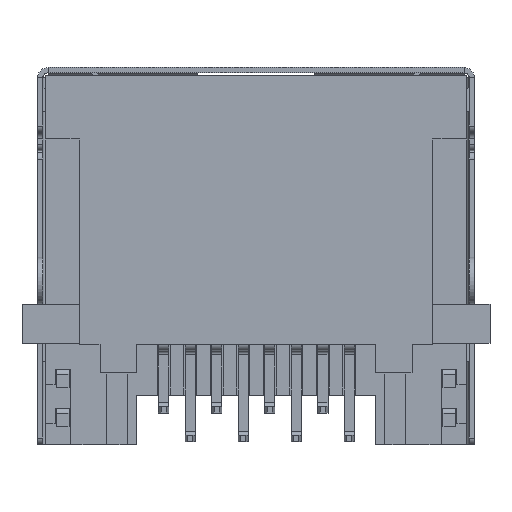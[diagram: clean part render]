
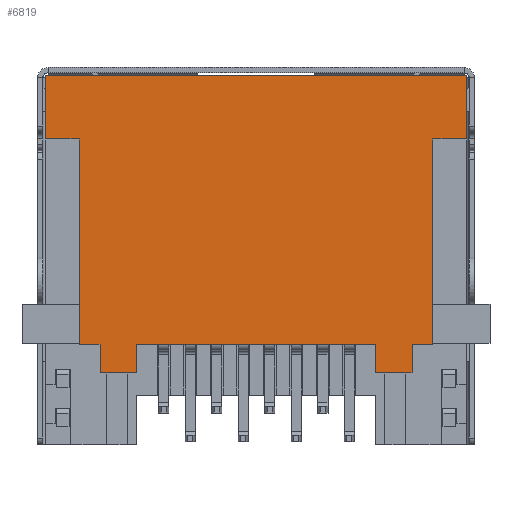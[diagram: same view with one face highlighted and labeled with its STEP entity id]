
A CAD part, front view. The second image highlights one B-rep face of the part: STEP entity #6819.
In plain terms, the highlighted planar face has unit normal (0, -1, 0).
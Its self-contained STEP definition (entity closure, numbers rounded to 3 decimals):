
#49=DIRECTION('',(1.,0.,0.));
#50=VECTOR('',#49,16.2);
#51=CARTESIAN_POINT('',(-8.1,-4.75,7.1));
#52=LINE('',#51,#50);
#337=DIRECTION('',(0.,0.,-1.));
#338=VECTOR('',#337,1.1);
#339=CARTESIAN_POINT('',(-6.,-4.75,-3.25));
#340=LINE('',#339,#338);
#637=DIRECTION('',(0.,0.,1.));
#638=VECTOR('',#637,2.45);
#639=CARTESIAN_POINT('',(8.1,-4.75,4.65));
#640=LINE('',#639,#638);
#2397=DIRECTION('',(1.,0.,0.));
#2398=VECTOR('',#2397,0.8);
#2399=CARTESIAN_POINT('',(6.,-4.75,-3.25));
#2400=LINE('',#2399,#2398);
#2401=DIRECTION('',(0.,0.,-1.));
#2402=VECTOR('',#2401,1.1);
#2403=CARTESIAN_POINT('',(4.6,-4.75,-3.25));
#2404=LINE('',#2403,#2402);
#2405=DIRECTION('',(1.,0.,0.));
#2406=VECTOR('',#2405,9.2);
#2407=CARTESIAN_POINT('',(-4.6,-4.75,-3.25));
#2408=LINE('',#2407,#2406);
#2409=DIRECTION('',(0.,0.,-1.));
#2410=VECTOR('',#2409,1.1);
#2411=CARTESIAN_POINT('',(-4.6,-4.75,-3.25));
#2412=LINE('',#2411,#2410);
#2413=DIRECTION('',(1.,0.,0.));
#2414=VECTOR('',#2413,0.8);
#2415=CARTESIAN_POINT('',(-6.8,-4.75,-3.25));
#2416=LINE('',#2415,#2414);
#2417=DIRECTION('',(0.,0.,-1.));
#2418=VECTOR('',#2417,7.9);
#2419=CARTESIAN_POINT('',(-6.8,-4.75,4.65));
#2420=LINE('',#2419,#2418);
#2421=DIRECTION('',(1.,0.,0.));
#2422=VECTOR('',#2421,1.3);
#2423=CARTESIAN_POINT('',(-8.1,-4.75,4.65));
#2424=LINE('',#2423,#2422);
#2425=DIRECTION('',(0.,0.,1.));
#2426=VECTOR('',#2425,2.45);
#2427=CARTESIAN_POINT('',(-8.1,-4.75,4.65));
#2428=LINE('',#2427,#2426);
#2429=DIRECTION('',(-1.,0.,0.));
#2430=VECTOR('',#2429,1.3);
#2431=CARTESIAN_POINT('',(8.1,-4.75,4.65));
#2432=LINE('',#2431,#2430);
#2433=DIRECTION('',(0.,0.,-1.));
#2434=VECTOR('',#2433,7.9);
#2435=CARTESIAN_POINT('',(6.8,-4.75,4.65));
#2436=LINE('',#2435,#2434);
#2437=DIRECTION('',(0.,0.,-1.));
#2438=VECTOR('',#2437,1.1);
#2439=CARTESIAN_POINT('',(6.,-4.75,-3.25));
#2440=LINE('',#2439,#2438);
#2449=DIRECTION('',(1.,0.,0.));
#2450=VECTOR('',#2449,1.4);
#2451=CARTESIAN_POINT('',(4.6,-4.75,-4.35));
#2452=LINE('',#2451,#2450);
#2485=DIRECTION('',(-1.,0.,0.));
#2486=VECTOR('',#2485,1.4);
#2487=CARTESIAN_POINT('',(-4.6,-4.75,-4.35));
#2488=LINE('',#2487,#2486);
#2665=CARTESIAN_POINT('',(-8.1,-4.75,7.1));
#2666=CARTESIAN_POINT('',(8.1,-4.75,7.1));
#2667=VERTEX_POINT('',#2665);
#2668=VERTEX_POINT('',#2666);
#2817=CARTESIAN_POINT('',(8.1,-4.75,4.65));
#2818=CARTESIAN_POINT('',(6.8,-4.75,4.65));
#2819=VERTEX_POINT('',#2817);
#2820=VERTEX_POINT('',#2818);
#2821=CARTESIAN_POINT('',(6.8,-4.75,-3.25));
#2822=VERTEX_POINT('',#2821);
#2831=CARTESIAN_POINT('',(-6.8,-4.75,4.65));
#2832=VERTEX_POINT('',#2831);
#2833=CARTESIAN_POINT('',(-8.1,-4.75,4.65));
#2834=VERTEX_POINT('',#2833);
#2835=CARTESIAN_POINT('',(-6.8,-4.75,-3.25));
#2836=VERTEX_POINT('',#2835);
#2993=CARTESIAN_POINT('',(-4.6,-4.75,-4.35));
#2994=CARTESIAN_POINT('',(-6.,-4.75,-4.35));
#2995=VERTEX_POINT('',#2993);
#2996=VERTEX_POINT('',#2994);
#3009=CARTESIAN_POINT('',(-6.,-4.75,-3.25));
#3010=VERTEX_POINT('',#3009);
#3011=CARTESIAN_POINT('',(-4.6,-4.75,-3.25));
#3012=VERTEX_POINT('',#3011);
#3017=CARTESIAN_POINT('',(4.6,-4.75,-4.35));
#3018=CARTESIAN_POINT('',(6.,-4.75,-4.35));
#3019=VERTEX_POINT('',#3017);
#3020=VERTEX_POINT('',#3018);
#3023=CARTESIAN_POINT('',(6.,-4.75,-3.25));
#3024=VERTEX_POINT('',#3023);
#3025=CARTESIAN_POINT('',(4.6,-4.75,-3.25));
#3026=VERTEX_POINT('',#3025);
#6787=CARTESIAN_POINT('',(-8.1,-4.75,-7.1));
#6788=DIRECTION('',(0.,-1.,0.));
#6789=DIRECTION('',(1.,0.,0.));
#6790=AXIS2_PLACEMENT_3D('',#6787,#6788,#6789);
#6791=PLANE('',#6790);
#6792=ORIENTED_EDGE('',*,*,#3820,.F.);
#6794=ORIENTED_EDGE('',*,*,#6793,.T.);
#6796=ORIENTED_EDGE('',*,*,#6795,.F.);
#6798=ORIENTED_EDGE('',*,*,#6797,.F.);
#6799=ORIENTED_EDGE('',*,*,#3897,.F.);
#6801=ORIENTED_EDGE('',*,*,#6800,.T.);
#6803=ORIENTED_EDGE('',*,*,#6802,.T.);
#6804=ORIENTED_EDGE('',*,*,#3916,.F.);
#6805=ORIENTED_EDGE('',*,*,#3808,.F.);
#6807=ORIENTED_EDGE('',*,*,#6806,.F.);
#6809=ORIENTED_EDGE('',*,*,#6808,.F.);
#6810=ORIENTED_EDGE('',*,*,#6206,.T.);
#6811=ORIENTED_EDGE('',*,*,#3574,.T.);
#6812=ORIENTED_EDGE('',*,*,#4187,.F.);
#6814=ORIENTED_EDGE('',*,*,#6813,.T.);
#6816=ORIENTED_EDGE('',*,*,#6815,.T.);
#6817=EDGE_LOOP('',(#6792,#6794,#6796,#6798,#6799,#6801,#6803,#6804,#6805,#6807,
#6809,#6810,#6811,#6812,#6814,#6816));
#6818=FACE_OUTER_BOUND('',#6817,.F.);
#6819=ADVANCED_FACE('',(#6818),#6791,.T.);
#3574=EDGE_CURVE('',#2667,#2668,#52,.T.);
#3808=EDGE_CURVE('',#2836,#3010,#2416,.T.);
#3820=EDGE_CURVE('',#3024,#2822,#2400,.T.);
#3897=EDGE_CURVE('',#3012,#3026,#2408,.T.);
#3916=EDGE_CURVE('',#3010,#2996,#340,.T.);
#4187=EDGE_CURVE('',#2819,#2668,#640,.T.);
#6206=EDGE_CURVE('',#2834,#2667,#2428,.T.);
#6793=EDGE_CURVE('',#3024,#3020,#2440,.T.);
#6795=EDGE_CURVE('',#3019,#3020,#2452,.T.);
#6797=EDGE_CURVE('',#3026,#3019,#2404,.T.);
#6800=EDGE_CURVE('',#3012,#2995,#2412,.T.);
#6802=EDGE_CURVE('',#2995,#2996,#2488,.T.);
#6806=EDGE_CURVE('',#2832,#2836,#2420,.T.);
#6808=EDGE_CURVE('',#2834,#2832,#2424,.T.);
#6813=EDGE_CURVE('',#2819,#2820,#2432,.T.);
#6815=EDGE_CURVE('',#2820,#2822,#2436,.T.);
